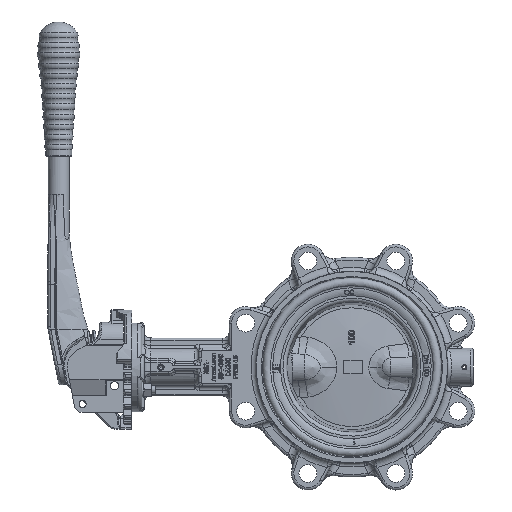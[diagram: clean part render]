
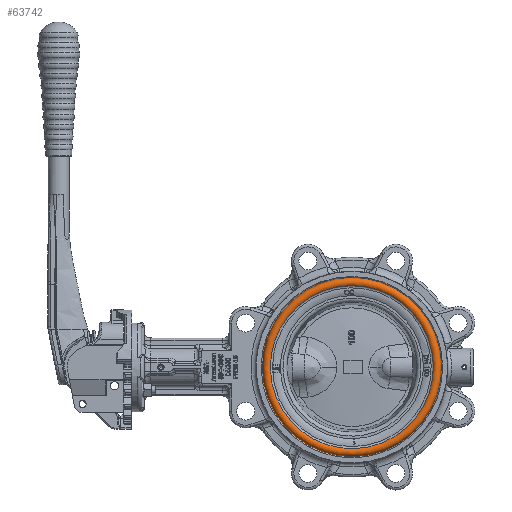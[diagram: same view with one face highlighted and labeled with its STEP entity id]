
A CAD part, left-side view. The second image highlights one B-rep face of the part: STEP entity #63742.
In plain terms, the highlighted toroidal (fillet/blend) face has major radius 66.5 mm and minor radius 3.5 mm.
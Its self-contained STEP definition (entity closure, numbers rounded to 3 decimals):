
#63708=CARTESIAN_POINT('',(-25.273,-69.983,1.545));
#63709=VERTEX_POINT('',#63708);
#63710=CARTESIAN_POINT('',(-25.273,0.,0.));
#63711=DIRECTION('',(-1.0,0.0,0.0));
#63712=DIRECTION('',(0.0,-1.,0.022));
#63713=AXIS2_PLACEMENT_3D('',#63710,#63711,#63712);
#63714=CIRCLE('',#63713,70.);
#63715=EDGE_CURVE('',#63709,#63709,#63714,.T.);
#63723=CARTESIAN_POINT('',(-25.273,0.,0.));
#63724=DIRECTION('',(-1.0,0.0,0.0));
#63725=DIRECTION('',(0.0,0.0,1.0));
#63726=AXIS2_PLACEMENT_3D('',#63723,#63724,#63725);
#63727=TOROIDAL_SURFACE('',#63726,66.5,3.5);
#63728=CARTESIAN_POINT('',(-27.5,-63.784,1.408));
#63729=VERTEX_POINT('',#63728);
#63730=CARTESIAN_POINT('',(-27.5,0.,0.));
#63731=DIRECTION('',(-1.0,0.0,0.0));
#63732=DIRECTION('',(0.0,-1.,0.022));
#63733=AXIS2_PLACEMENT_3D('',#63730,#63731,#63732);
#63734=CIRCLE('',#63733,63.8);
#63735=EDGE_CURVE('',#63729,#63729,#63734,.T.);
#63736=ORIENTED_EDGE('',*,*,#63735,.F.);
#63737=EDGE_LOOP('',(#63736));
#63738=FACE_OUTER_BOUND('',#63737,.T.);
#63739=ORIENTED_EDGE('',*,*,#63715,.T.);
#63740=EDGE_LOOP('',(#63739));
#63741=FACE_BOUND('',#63740,.T.);
#63742=ADVANCED_FACE('',(#63738,#63741),#63727,.T.);
